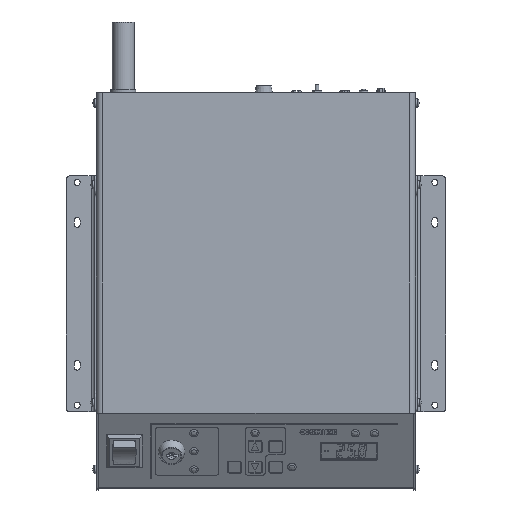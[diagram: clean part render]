
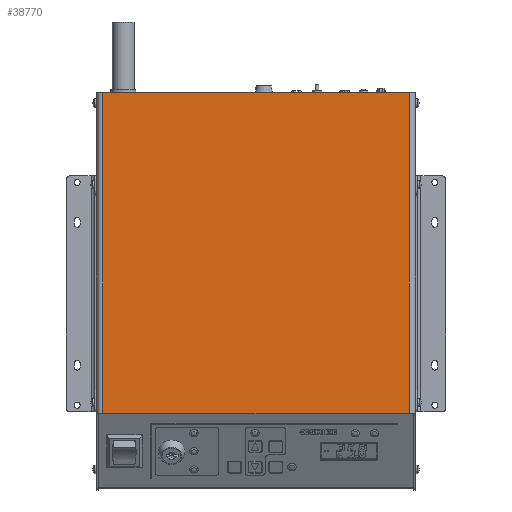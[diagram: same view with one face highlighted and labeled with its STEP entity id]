
A CAD part, top view. The second image highlights one B-rep face of the part: STEP entity #38770.
In plain terms, the highlighted planar face has unit normal (0, 0, 1).
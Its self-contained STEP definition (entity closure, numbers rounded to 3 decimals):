
#38770=ADVANCED_FACE('', (#38780), #38790, .T.);
#141980=AXIS2_PLACEMENT_3D('Ax2Pl3d', #141990, #142000, #142010);
#207570=CARTESIAN_POINT('', (-256.899,74.73,
-43.95));
#207580=CARTESIAN_POINT('', (-256.899,74.73,
-43.95));
#207590=CARTESIAN_POINT('', (-3.399,74.73,-43.95)
);
#209520=CARTESIAN_POINT('', (-256.899,-190.07,
-43.95));
#209530=CARTESIAN_POINT('', (-256.899,-190.07,
-43.95));
#141990=CARTESIAN_POINT('HicPkt', (-98.399,74.73,
-43.95));
#209540=CARTESIAN_POINT('', (-3.399,74.73,-43.95)
);
#209550=CARTESIAN_POINT('', (-3.399,-190.07,
-43.95));
#209560=CARTESIAN_POINT('', (-3.399,-190.07,
-43.95));
#352380=DIRECTION('', (-1.,0.,0.));
#353300=DIRECTION('', (0.,-1.,0.));
#142000=DIRECTION('Axis', (0.,0.,1.));
#142010=DIRECTION('RefDirection', (1.,0.,-0.));
#353310=DIRECTION('', (0.,1.,0.));
#353320=DIRECTION('', (1.,0.,0.));
#426640=EDGE_CURVE('', #426650, #426630, #426660, .T.);
#429740=EDGE_CURVE('', #426630, #429730, #429750, .T.);
#429760=EDGE_CURVE('', #429770, #426650, #429780, .T.);
#429790=EDGE_CURVE('', #429730, #429770, #429800, .T.);
#516870=EDGE_LOOP('Edge_loop', (#516880,#516890,#516900,#516910));
#38780=FACE_OUTER_BOUND('Face_outer_bound', #516870, .T.);
#426660=LINE('Line', #207580, #550240);
#429750=LINE('Line', #209530, #551160);
#429780=LINE('Line', #209540, #551170);
#429800=LINE('Line', #209560, #551180);
#516880=ORIENTED_EDGE('', *, *, #429760, .T.);
#516890=ORIENTED_EDGE('', *, *, #426640, .T.);
#516900=ORIENTED_EDGE('', *, *, #429740, .T.);
#516910=ORIENTED_EDGE('', *, *, #429790, .T.);
#38790=PLANE('Plane', #141980);
#550240=VECTOR('', #352380, 253.5);
#551160=VECTOR('', #353300, 264.8);
#551170=VECTOR('', #353310, 264.8);
#551180=VECTOR('', #353320, 253.5);
#426630=VERTEX_POINT('', #207570);
#426650=VERTEX_POINT('', #207590);
#429730=VERTEX_POINT('', #209520);
#429770=VERTEX_POINT('', #209550);
